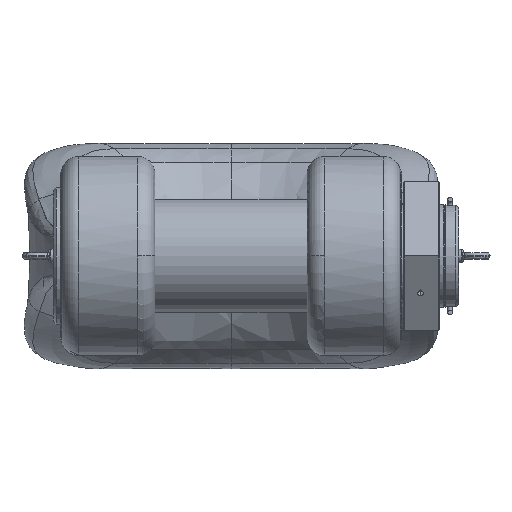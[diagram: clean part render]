
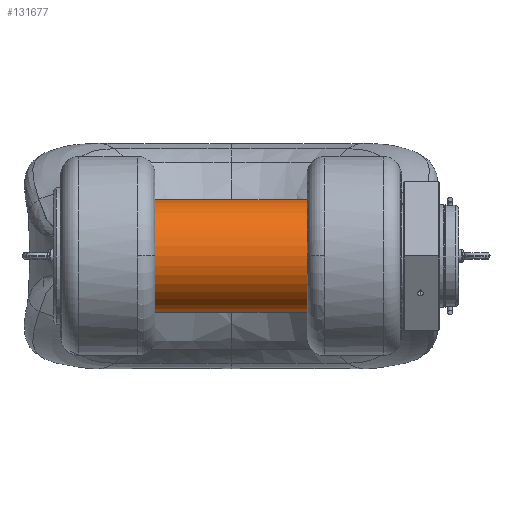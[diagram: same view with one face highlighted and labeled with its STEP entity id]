
A CAD part, front view. The second image highlights one B-rep face of the part: STEP entity #131677.
In plain terms, the highlighted cylindrical face has radius 192.5 mm (diameter 385 mm), a partial arc.
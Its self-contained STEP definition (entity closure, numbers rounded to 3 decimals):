
#125272=DIRECTION('',(0.,0.,1.));
#125273=VECTOR('',#125272,1115.);
#125274=CARTESIAN_POINT('',(192.5,0.,10.));
#125275=LINE('',#125274,#125273);
#125279=CARTESIAN_POINT('',(0.,0.,1125.));
#125280=DIRECTION('',(0.,0.,1.));
#125281=DIRECTION('',(-1.,0.,0.));
#125282=AXIS2_PLACEMENT_3D('',#125279,#125280,#125281);
#125287=CARTESIAN_POINT('',(0.,0.,10.));
#125288=DIRECTION('',(0.,0.,-1.));
#125289=DIRECTION('',(1.,0.,0.));
#125290=AXIS2_PLACEMENT_3D('',#125287,#125288,#125289);
#125295=DIRECTION('',(0.,0.,1.));
#125296=VECTOR('',#125295,1115.);
#125297=CARTESIAN_POINT('',(-192.5,0.,10.));
#125298=LINE('',#125297,#125296);
#130658=CARTESIAN_POINT('',(-192.5,0.,10.));
#130660=VERTEX_POINT('',#130658);
#130662=CARTESIAN_POINT('',(192.5,0.,10.));
#130663=VERTEX_POINT('',#130662);
#130673=CARTESIAN_POINT('',(-192.5,0.,1125.));
#130674=CARTESIAN_POINT('',(192.5,0.,1125.));
#130675=VERTEX_POINT('',#130673);
#130676=VERTEX_POINT('',#130674);
#131665=CARTESIAN_POINT('',(0.,0.,0.));
#131666=DIRECTION('',(0.,0.,1.));
#131667=DIRECTION('',(1.,0.,0.));
#131668=AXIS2_PLACEMENT_3D('',#131665,#131666,#131667);
#131669=CYLINDRICAL_SURFACE('',#131668,192.5);
#131670=ORIENTED_EDGE('',*,*,#131607,.T.);
#131671=ORIENTED_EDGE('',*,*,#131653,.F.);
#131673=ORIENTED_EDGE('',*,*,#131672,.T.);
#131674=ORIENTED_EDGE('',*,*,#131647,.T.);
#131675=EDGE_LOOP('',(#131670,#131671,#131673,#131674));
#131676=FACE_OUTER_BOUND('',#131675,.F.);
#131677=ADVANCED_FACE('',(#131676),#131669,.T.);
#125283=CIRCLE('',#125282,192.5);
#125291=CIRCLE('',#125290,192.5);
#131607=EDGE_CURVE('',#130675,#130676,#125283,.T.);
#131647=EDGE_CURVE('',#130660,#130675,#125298,.T.);
#131653=EDGE_CURVE('',#130663,#130676,#125275,.T.);
#131672=EDGE_CURVE('',#130663,#130660,#125291,.T.);
